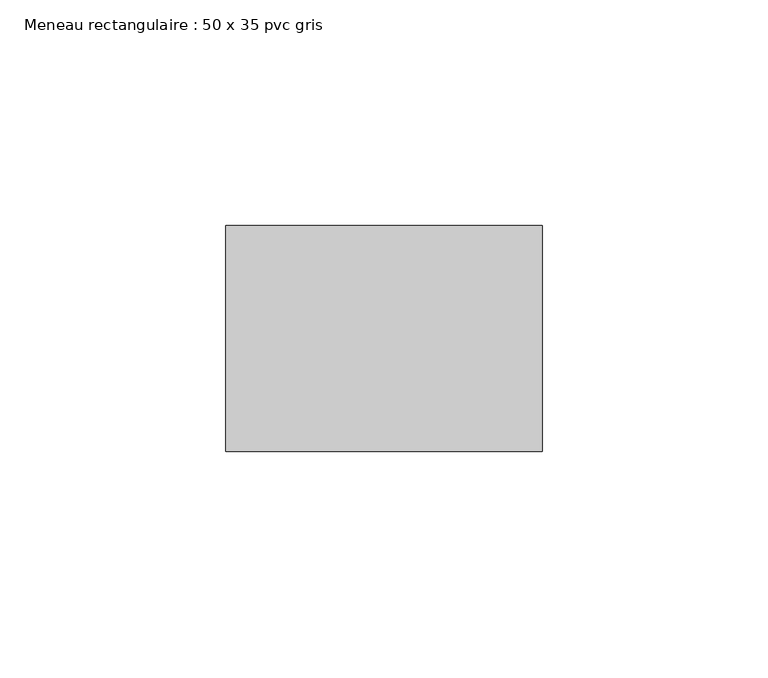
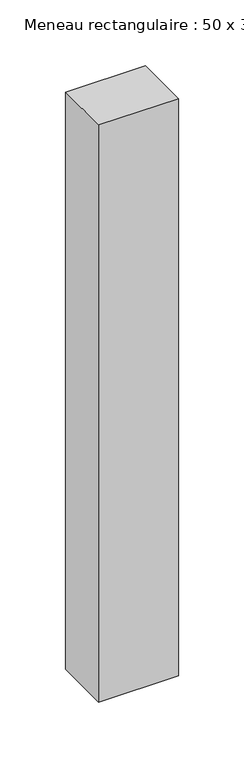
"""IFC4 building model written with IfcOpenShell, lengths in millimetres: member geometry, Meneau rectangulaire : 50 x 35 pvc gris."""

from ifc_helpers import new_model, si_unit, frame, origin, place, context, project, spatial, polyline, outline, extrude, source, transform, mapped, element, save


def meneau_rectangulaire_50_x_35_pvc_gris_00d46b4e(model_context):
    return source(origin(), model_context, "Body", "SweptSolid", [
        extrude(outline(polyline([(0.0, 0.0), (0.0, -50.0), (-70.0, -50.0), (-70.0, 0.0), (0.0, 0.0)])), frame((0.0, 0.0, -535.0), z_axis=(0.0, 0.0, 1.0), x_axis=(1.0, 0.0, 0.0)), (0.0, 0.0, 1.0), 535.0),
    ])


if __name__ == "__main__":
    model = new_model("IFC4")
    model_context = context("Model", 3, world=origin())
    ifc_project = project(units=[si_unit("LENGTHUNIT", "METRE", prefix="MILLI")], contexts=[model_context])
    site = spatial("IfcSite", under=ifc_project)
    building = spatial("IfcBuilding", under=site)
    placement = place(None, origin())
    meneau_rectangulaire_50_x_35_pvc_gris_shape = meneau_rectangulaire_50_x_35_pvc_gris_00d46b4e(model_context)
    element("IfcMember", 1, ObjectType="Meneau rectangulaire : 50 x 35 pvc gris", at=placement, inside=building, context=model_context, shape_type="MappedRepresentation", body=[
        mapped(meneau_rectangulaire_50_x_35_pvc_gris_shape, transform((0.0, 0.0, 0.0), x_axis=(1.0, 0.0, 0.0), y_axis=(0.0, 1.0, 0.0), z_axis=(0.0, 0.0, 1.0))),
    ])
    save(model, "model.ifc")
